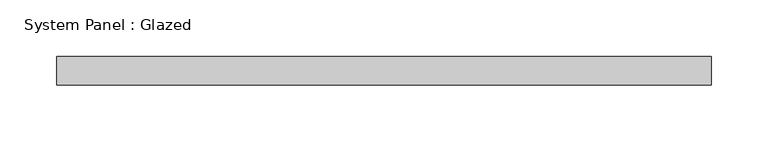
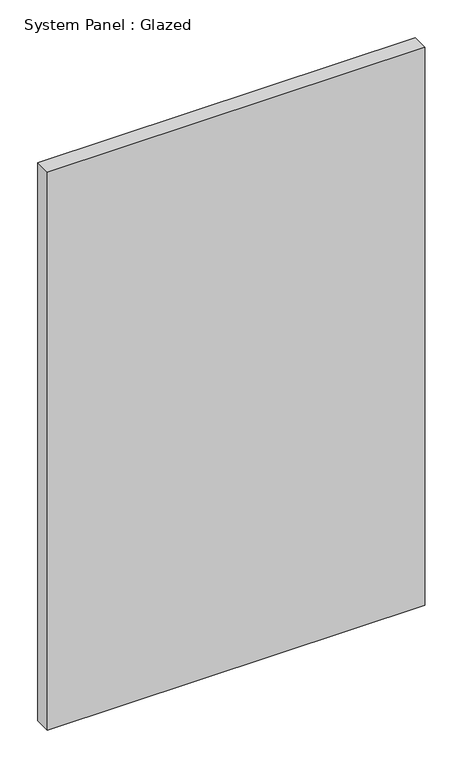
"""IFC4 building model written with IfcOpenShell, lengths in millimetres: plate geometry, System Panel : Glazed."""

from ifc_helpers import new_model, si_unit, origin, origin_with_axes, place, context, project, spatial, polyline, outline, extrude, source, transform, mapped, element, save


def system_panel_glazed_9344a8b1(model_context):
    return source(origin(), model_context, "Body", "SweptSolid", [
        extrude(outline(polyline([(287.5, -12.5), (-287.5, -12.5), (-287.5, 12.5), (287.5, 12.5), (287.5, -12.5)])), origin_with_axes(), (0.0, 0.0, 1.0), 898.3333333),
    ])


if __name__ == "__main__":
    model = new_model("IFC4")
    model_context = context("Model", 3, world=origin())
    ifc_project = project(units=[si_unit("LENGTHUNIT", "METRE", prefix="MILLI")], contexts=[model_context])
    site = spatial("IfcSite", under=ifc_project)
    building = spatial("IfcBuilding", under=site)
    placement = place(None, origin())
    system_panel_glazed_shape = system_panel_glazed_9344a8b1(model_context)
    element("IfcPlate", 1, ObjectType="System Panel : Glazed", at=placement, inside=building, context=model_context, shape_type="MappedRepresentation", body=[
        mapped(system_panel_glazed_shape, transform((0.0, 0.0, 0.0), x_axis=(1.0, 0.0, 0.0), y_axis=(0.0, 1.0, 0.0), z_axis=(0.0, 0.0, 1.0))),
    ])
    save(model, "model.ifc")
